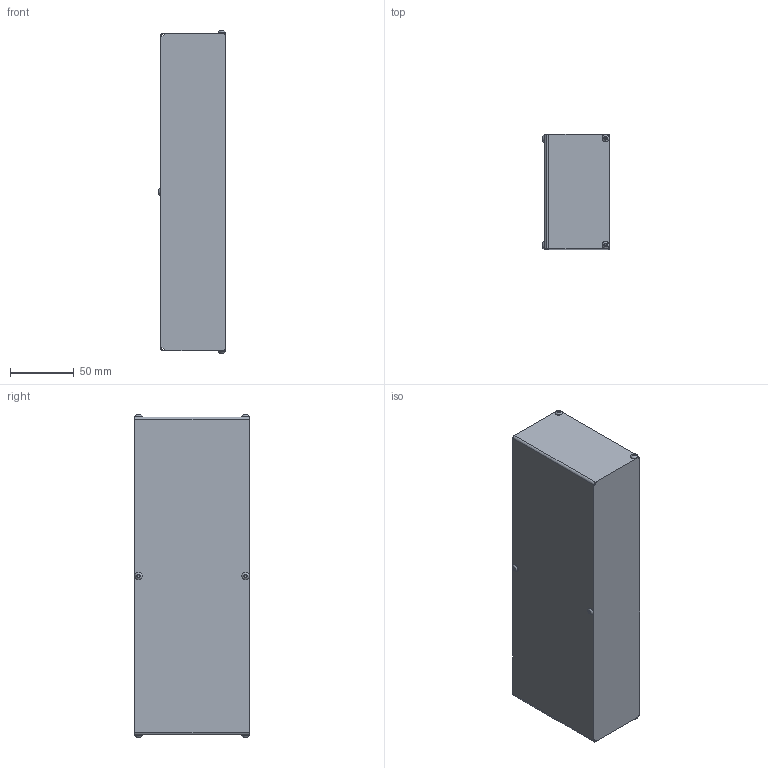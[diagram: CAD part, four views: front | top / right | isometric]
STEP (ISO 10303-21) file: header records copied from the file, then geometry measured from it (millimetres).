
FILE_DESCRIPTION(/* description */ (''),/* implementation_level */ '2;1');
FILE_NAME(/* name */ 'X:\VIRI ZA WEB\CAD DATOTEKE\LINEARNE ENOTE UNIMOTION\DODATNA OPREMA ZA LINEARNE ENOTE\STRANSKI POGONI\CTV-MTV\CTV 110-MTV 65\MSD CTV 110 T2 1 60 X 60\izvoz\MSD CTV 110 T2 1 60 X 60.stp',/* time_stamp */ '2016-06-06T10:24:02+02:00',/* author */ ('Hypex'),/* organization */ ('Hypex'),/* preprocessor_version */ 'ST-DEVELOPER v16.1',/* originating_system */ 'Autodesk Inventor 2016',/* authorisation */ '');
FILE_SCHEMA (('AUTOMOTIVE_DESIGN { 1 0 10303 214 3 1 1 }'));
Length unit declared in the file: millimetre
Products named in the file (1): MSD CTV 110 T2 1 60 X 60
Bounding box: 52.65 x 90 x 253.3 mm (x, y, z)
Volume: 1131431.1 mm3; surface area: 83947.4 mm2
Topology: 1 solids, 13 shells, 192 faces, 460 edges, 305 vertices
Faces by surface type: plane 111, cylinder 49, cone 20, bspline 6, torus 6
Full cylindrical faces by diameter (mm): 2.459 x6, 3 x6, 4 x6, 5.7 x6, 6.2 x8, 25 x1
Entity records: 5227 total; most frequent: CARTESIAN_POINT 1053, DIRECTION 820, ORIENTED_EDGE 716, EDGE_CURVE 358, AXIS2_PLACEMENT_3D 317, EDGE_LOOP 278, VERTEX_POINT 262, STYLED_ITEM 193
